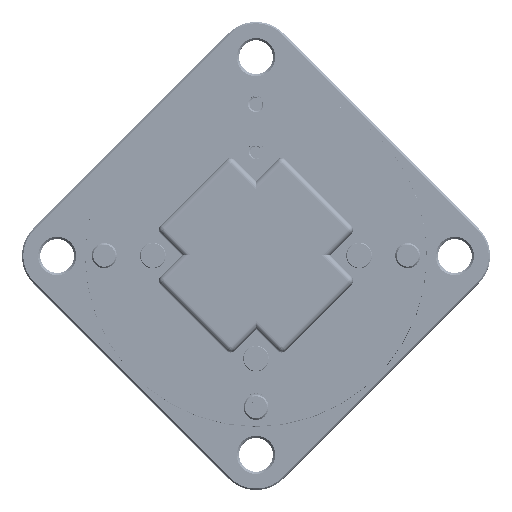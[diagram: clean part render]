
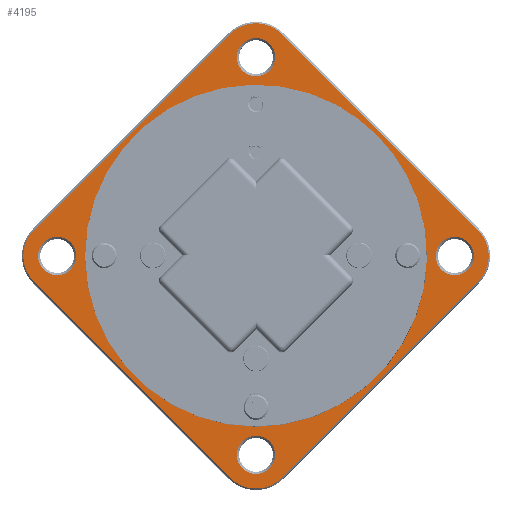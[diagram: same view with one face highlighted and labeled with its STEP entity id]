
A CAD part, top view. The second image highlights one B-rep face of the part: STEP entity #4195.
In plain terms, the highlighted planar face has unit normal (0, 0, 1).
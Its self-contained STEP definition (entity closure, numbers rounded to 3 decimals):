
#1019=PLANE('',#22853);
#2958=FACE_BOUND('',#7346,.T.);
#2959=FACE_BOUND('',#7347,.T.);
#2960=FACE_BOUND('',#7348,.T.);
#2961=FACE_BOUND('',#7349,.T.);
#2962=FACE_BOUND('',#7350,.T.);
#2963=FACE_BOUND('',#7351,.T.);
#4195=ADVANCED_FACE('',(#2958,#2959,#2960,#2961,#2962,#2963),#1019,.T.);
#7346=EDGE_LOOP('',(#13952));
#7347=EDGE_LOOP('',(#13953));
#7348=EDGE_LOOP('',(#13954));
#7349=EDGE_LOOP('',(#13955));
#7350=EDGE_LOOP('',(#13956,#13957,#13958,#13959,#13960,#13961,#13962,#13963));
#7351=EDGE_LOOP('',(#13964));
#8470=LINE('',#398293,#9518);
#8471=LINE('',#398298,#9519);
#8472=LINE('',#398302,#9520);
#8473=LINE('',#398306,#9521);
#9518=VECTOR('',#27207,1.);
#9519=VECTOR('',#27210,1.);
#9520=VECTOR('',#27213,1.);
#9521=VECTOR('',#27216,1.);
#13952=ORIENTED_EDGE('',*,*,#19611,.T.);
#13953=ORIENTED_EDGE('',*,*,#19612,.T.);
#13954=ORIENTED_EDGE('',*,*,#19613,.T.);
#13955=ORIENTED_EDGE('',*,*,#19614,.T.);
#13956=ORIENTED_EDGE('',*,*,#19615,.T.);
#13957=ORIENTED_EDGE('',*,*,#19616,.T.);
#13958=ORIENTED_EDGE('',*,*,#19617,.T.);
#13959=ORIENTED_EDGE('',*,*,#19618,.T.);
#13960=ORIENTED_EDGE('',*,*,#19619,.T.);
#13961=ORIENTED_EDGE('',*,*,#19620,.T.);
#13962=ORIENTED_EDGE('',*,*,#19621,.T.);
#13963=ORIENTED_EDGE('',*,*,#19622,.T.);
#13964=ORIENTED_EDGE('',*,*,#19623,.F.);
#17026=VERTEX_POINT('',#398286);
#17027=VERTEX_POINT('',#398288);
#17028=VERTEX_POINT('',#398290);
#17029=VERTEX_POINT('',#398292);
#17030=VERTEX_POINT('',#398294);
#17031=VERTEX_POINT('',#398295);
#17032=VERTEX_POINT('',#398297);
#17033=VERTEX_POINT('',#398299);
#17034=VERTEX_POINT('',#398301);
#17035=VERTEX_POINT('',#398303);
#17036=VERTEX_POINT('',#398305);
#17037=VERTEX_POINT('',#398307);
#17038=VERTEX_POINT('',#398310);
#19611=EDGE_CURVE('',#17026,#17026,#21013,.T.);
#19612=EDGE_CURVE('',#17027,#17027,#21014,.T.);
#19613=EDGE_CURVE('',#17028,#17028,#21015,.T.);
#19614=EDGE_CURVE('',#17029,#17029,#21016,.T.);
#19615=EDGE_CURVE('',#17030,#17031,#8470,.T.);
#19616=EDGE_CURVE('',#17031,#17032,#21017,.T.);
#19617=EDGE_CURVE('',#17032,#17033,#8471,.T.);
#19618=EDGE_CURVE('',#17033,#17034,#21018,.T.);
#19619=EDGE_CURVE('',#17034,#17035,#8472,.T.);
#19620=EDGE_CURVE('',#17035,#17036,#21019,.T.);
#19621=EDGE_CURVE('',#17036,#17037,#8473,.T.);
#19622=EDGE_CURVE('',#17037,#17030,#21020,.T.);
#19623=EDGE_CURVE('',#17038,#17038,#21021,.T.);
#21013=CIRCLE('',#22844,6.5);
#21014=CIRCLE('',#22845,6.5);
#21015=CIRCLE('',#22846,6.5);
#21016=CIRCLE('',#22847,6.5);
#21017=CIRCLE('',#22848,12.5);
#21018=CIRCLE('',#22849,12.5);
#21019=CIRCLE('',#22850,12.5);
#21020=CIRCLE('',#22851,12.5);
#21021=CIRCLE('',#22852,57.5);
#22844=AXIS2_PLACEMENT_3D('',#398285,#27199,#27200);
#22845=AXIS2_PLACEMENT_3D('',#398287,#27201,#27202);
#22846=AXIS2_PLACEMENT_3D('',#398289,#27203,#27204);
#22847=AXIS2_PLACEMENT_3D('',#398291,#27205,#27206);
#22848=AXIS2_PLACEMENT_3D('',#398296,#27208,#27209);
#22849=AXIS2_PLACEMENT_3D('',#398300,#27211,#27212);
#22850=AXIS2_PLACEMENT_3D('',#398304,#27214,#27215);
#22851=AXIS2_PLACEMENT_3D('',#398308,#27217,#27218);
#22852=AXIS2_PLACEMENT_3D('',#398309,#27219,#27220);
#22853=AXIS2_PLACEMENT_3D('',#398311,#27221,#27222);
#27199=DIRECTION('',(0.,0.,-1.));
#27200=DIRECTION('',(0.707,0.707,0.));
#27201=DIRECTION('',(0.,0.,-1.));
#27202=DIRECTION('',(0.707,0.707,0.));
#27203=DIRECTION('',(0.,0.,-1.));
#27204=DIRECTION('',(0.707,0.707,0.));
#27205=DIRECTION('',(0.,0.,-1.));
#27206=DIRECTION('',(0.707,0.707,0.));
#27207=DIRECTION('',(-0.707,0.707,0.));
#27208=DIRECTION('',(0.,0.,1.));
#27209=DIRECTION('',(0.707,0.707,0.));
#27210=DIRECTION('',(-0.707,-0.707,0.));
#27211=DIRECTION('',(0.,0.,1.));
#27212=DIRECTION('',(0.707,0.707,0.));
#27213=DIRECTION('',(0.707,-0.707,0.));
#27214=DIRECTION('',(0.,0.,1.));
#27215=DIRECTION('',(0.707,0.707,0.));
#27216=DIRECTION('',(0.707,0.707,0.));
#27217=DIRECTION('',(0.,0.,1.));
#27218=DIRECTION('',(0.707,0.707,0.));
#27219=DIRECTION('',(0.,0.,1.));
#27220=DIRECTION('',(-0.707,-0.707,0.));
#27221=DIRECTION('',(0.,0.,1.));
#27222=DIRECTION('',(0.707,0.707,0.));
#398285=CARTESIAN_POINT('',(0.,67.5,48.));
#398286=CARTESIAN_POINT('',(4.596,72.096,48.));
#398287=CARTESIAN_POINT('',(67.5,0.,48.));
#398288=CARTESIAN_POINT('',(72.096,4.596,48.));
#398289=CARTESIAN_POINT('',(0.,-67.5,48.));
#398290=CARTESIAN_POINT('',(4.596,-62.904,48.));
#398291=CARTESIAN_POINT('',(-67.5,0.,48.));
#398292=CARTESIAN_POINT('',(-62.904,4.596,48.));
#398293=CARTESIAN_POINT('',(8.839,75.307,48.));
#398294=CARTESIAN_POINT('',(75.307,8.839,48.));
#398295=CARTESIAN_POINT('',(8.839,75.307,48.));
#398296=CARTESIAN_POINT('',(0.,66.468,48.));
#398297=CARTESIAN_POINT('',(-8.839,75.307,48.));
#398298=CARTESIAN_POINT('',(-75.307,8.839,48.));
#398299=CARTESIAN_POINT('',(-75.307,8.839,48.));
#398300=CARTESIAN_POINT('',(-66.468,0.,48.));
#398301=CARTESIAN_POINT('',(-75.307,-8.839,48.));
#398302=CARTESIAN_POINT('',(-8.839,-75.307,48.));
#398303=CARTESIAN_POINT('',(-8.839,-75.307,48.));
#398304=CARTESIAN_POINT('',(0.,-66.468,48.));
#398305=CARTESIAN_POINT('',(8.839,-75.307,48.));
#398306=CARTESIAN_POINT('',(75.307,-8.839,48.));
#398307=CARTESIAN_POINT('',(75.307,-8.839,48.));
#398308=CARTESIAN_POINT('',(66.468,0.,48.));
#398309=CARTESIAN_POINT('',(0.,0.,
48.));
#398310=CARTESIAN_POINT('',(-40.659,-40.659,48.));
#398311=CARTESIAN_POINT('',(0.,0.,
48.));
